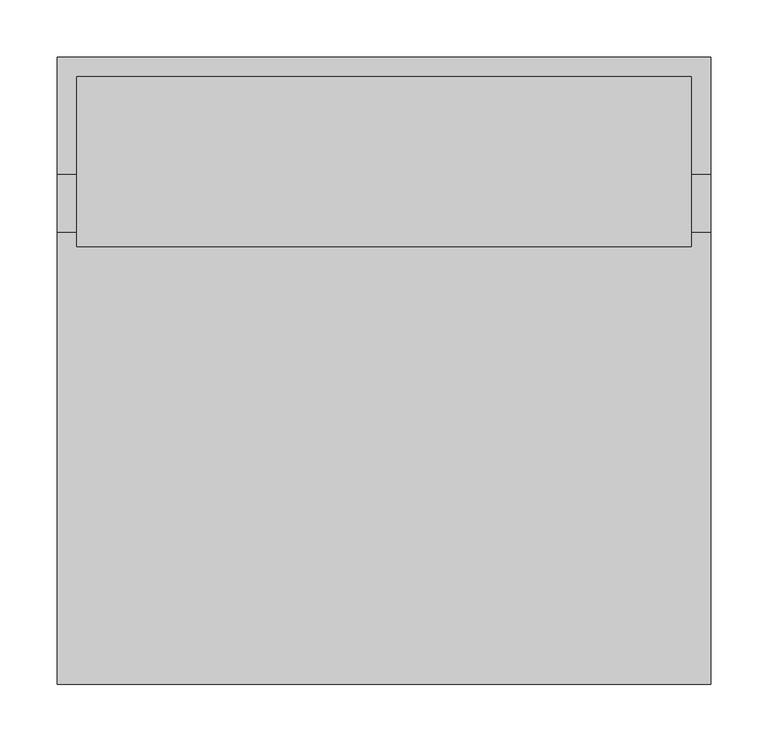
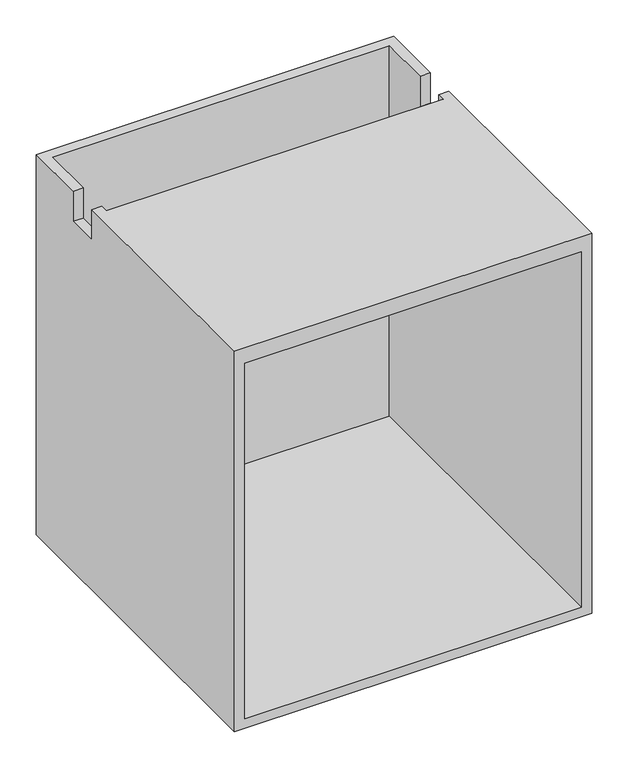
"""IFC4 building model written with IfcOpenShell, lengths in millimetres: furniture geometry."""

from ifc_helpers import new_model, si_unit, origin, place, context, project, spatial, faceted_brep, source, transform, mapped, element, save


def furniture_197736b8(model_context):
    return source(origin(), model_context, "Body", "Brep", [
        faceted_brep([(-284.1625, -272.8595, 252.19152), (284.1625, -272.8595, 252.19152), (284.1625, -272.8595, 891.96672), (-284.1625, -272.8595, 891.96672), (267.8811, -272.8595, 268.47292), (-267.8811, -272.8595, 268.47292), (-267.8811, -272.8595, 866.56672), (267.8811, -272.8595, 866.56672), (267.8811, 256.5781, 268.47292), (-267.8811, 256.5781, 268.47292), (-267.8811, 256.5781, 891.96672), (-267.8811, 171.2595, 891.96672), (-267.8811, 171.2595, 841.16672), (-267.8811, 120.4595, 841.16672), (-267.8811, 120.4595, 891.96672), (-267.8811, 107.7595, 891.96672), (-267.8811, 107.7595, 866.56672), (267.8811, 107.7595, 866.56672), (267.8811, 107.7595, 891.96672), (267.8811, 120.4595, 891.96672), (267.8811, 120.4595, 841.16672), (267.8811, 171.2595, 841.16672), (267.8811, 171.2595, 891.96672), (267.8811, 256.5781, 891.96672), (-284.1625, 272.8595, 252.19152), (284.1625, 272.8595, 252.19152), (284.1625, 272.8595, 891.96672), (284.1625, 171.2595, 891.96672), (284.1625, 171.2595, 841.16672), (284.1625, 120.4595, 841.16672), (284.1625, 120.4595, 891.96672), (-284.1625, 120.4595, 891.96672), (-284.1625, 272.8595, 891.96672), (-284.1625, 171.2595, 891.96672), (-284.1625, 120.4595, 841.16672), (-284.1625, 171.2595, 841.16672)], [[[0, 1, 2, 3], [4, 5, 6, 7]], [[5, 4, 8, 9]], [[6, 5, 9, 10, 11, 12, 13, 14, 15, 16]], [[7, 6, 16, 17]], [[4, 7, 17, 18, 19, 20, 21, 22, 23, 8]], [[1, 0, 24, 25]], [[2, 1, 25, 26, 27, 28, 29, 30]], [[3, 2, 30, 19, 18, 15, 14, 31]], [[26, 32, 33, 11, 10, 23, 22, 27]], [[0, 3, 31, 34, 35, 33, 32, 24]], [[12, 35, 34, 13]], [[28, 21, 20, 29]], [[22, 21, 28, 27]], [[35, 12, 11, 33]], [[14, 13, 34, 31]], [[29, 20, 19, 30]], [[32, 26, 25, 24]], [[10, 9, 8, 23]], [[16, 15, 18, 17]]]),
    ])


if __name__ == "__main__":
    model = new_model("IFC4")
    model_context = context("Model", 3, world=origin())
    ifc_project = project(units=[si_unit("LENGTHUNIT", "METRE", prefix="MILLI")], contexts=[model_context])
    site = spatial("IfcSite", under=ifc_project)
    building = spatial("IfcBuilding", under=site)
    placement = place(None, origin())
    furniture_shape = furniture_197736b8(model_context)
    element("IfcFurniture", 1, ObjectType="HermanMiller_CoStruc_C5040_StorageCase : 25\"H x 23\"D x 22\"W", at=placement, inside=building, context=model_context, shape_type="MappedRepresentation", body=[
        mapped(furniture_shape, transform((0.0, 0.0, 0.0), x_axis=(1.0, 0.0, 0.0), y_axis=(0.0, 1.0, 0.0), z_axis=(0.0, 0.0, 1.0))),
    ])
    save(model, "model.ifc")
